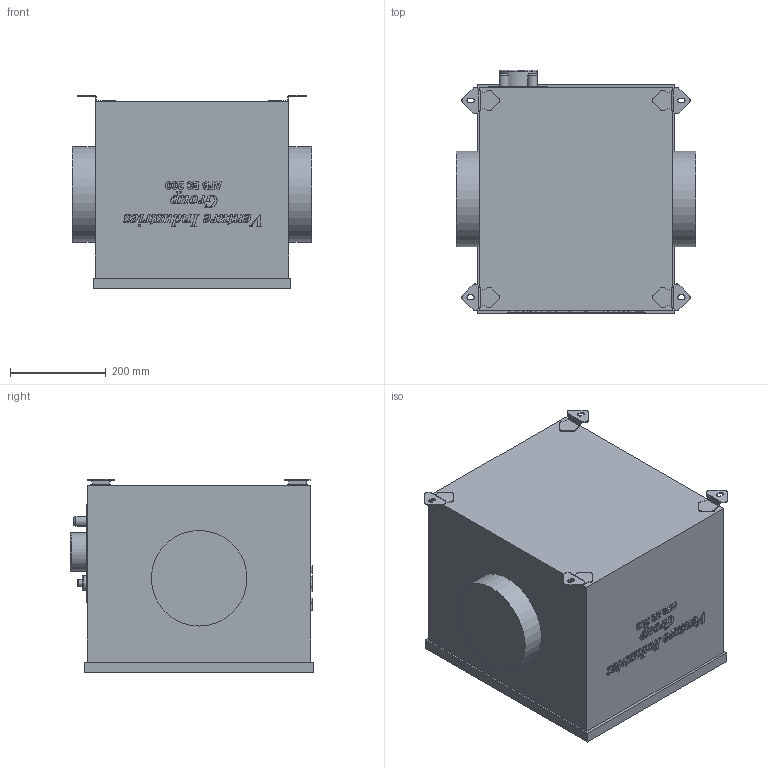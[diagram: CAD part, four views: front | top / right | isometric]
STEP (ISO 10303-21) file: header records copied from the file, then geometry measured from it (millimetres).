
FILE_DESCRIPTION(/* description */ (''),/* implementation_level */ '2;1');
FILE_NAME(/* name */ 'D:\Piotr - Dokumenty\Modele uproszczone\AFB EC\AFB_EC_200\AFB_EC_200.stp',/* time_stamp */ '2021-03-23T13:55:04+01:00',/* author */ ('Piotr.Nowotniak'),/* organization */ (''),/* preprocessor_version */ 'ST-DEVELOPER v18',/* originating_system */ 'Autodesk Inventor 2020',/* authorisation */ '');
FILE_SCHEMA (('AUTOMOTIVE_DESIGN { 1 0 10303 214 3 1 1 }'));
Length unit declared in the file: millimetre
Products named in the file (1): AFB_EC_200
Bounding box: 500.8 x 510 x 404.46 mm (x, y, z)
Volume: 77668922.6 mm3; surface area: 1178755.1 mm2
Topology: 1 solids, 1 shells, 790 faces, 2179 edges, 1446 vertices
Faces by surface type: bspline 379, plane 323, cylinder 83, torus 5
Full cylindrical faces by diameter (mm): 15 x1, 20.2 x2, 30 x1, 80 x1, 200 x2
Entity records: 31358 total; most frequent: CARTESIAN_POINT 13378, ORIENTED_EDGE 4358, DIRECTION 2406, EDGE_CURVE 2179, VERTEX_POINT 1446, LINE 1260, VECTOR 1260, EDGE_LOOP 853
